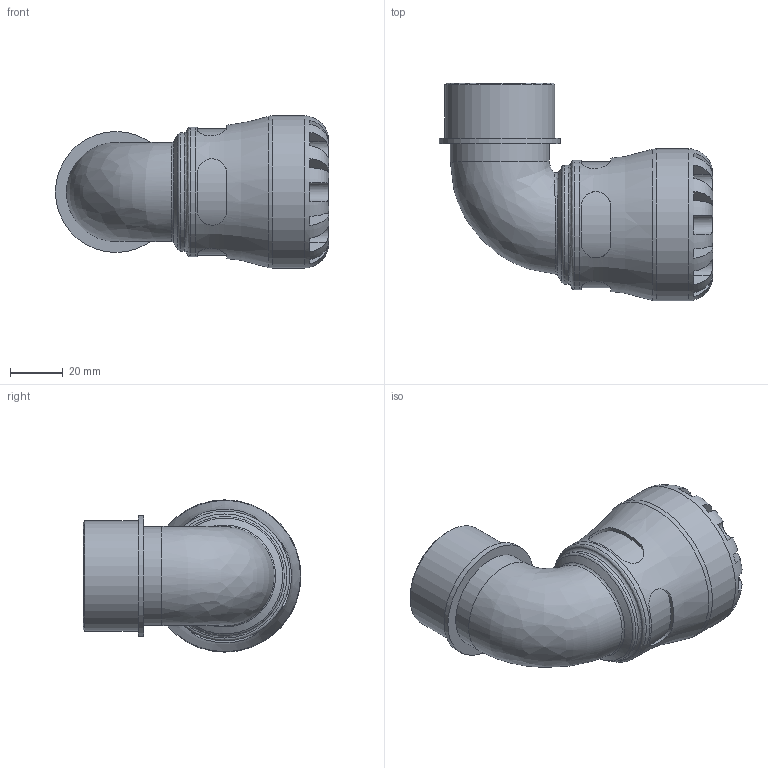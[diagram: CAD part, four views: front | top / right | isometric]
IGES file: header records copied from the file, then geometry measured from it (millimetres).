
Global section: file name: 108500032013_198500032013.ipt; native system: Autodesk Inventor 2015; preprocessor: unknown; author: KIM; date: 20190127.091522; units: millimetre
Bounding box: 104.05 x 83 x 58 mm (x, y, z)
Volume: 115402.6 mm3; surface area: 34911.2 mm2
Topology: 1 solids, 1 shells, 110 faces, 280 edges, 176 vertices
Faces by surface type: plane 61, revolution 26, cylinder 18, bspline 4, cone 1
Full cylindrical faces by diameter (mm): 37.719 x1, 41.91 x1, 45.24 x1, 46.101 x1, 49.3 x1, 58 x1
